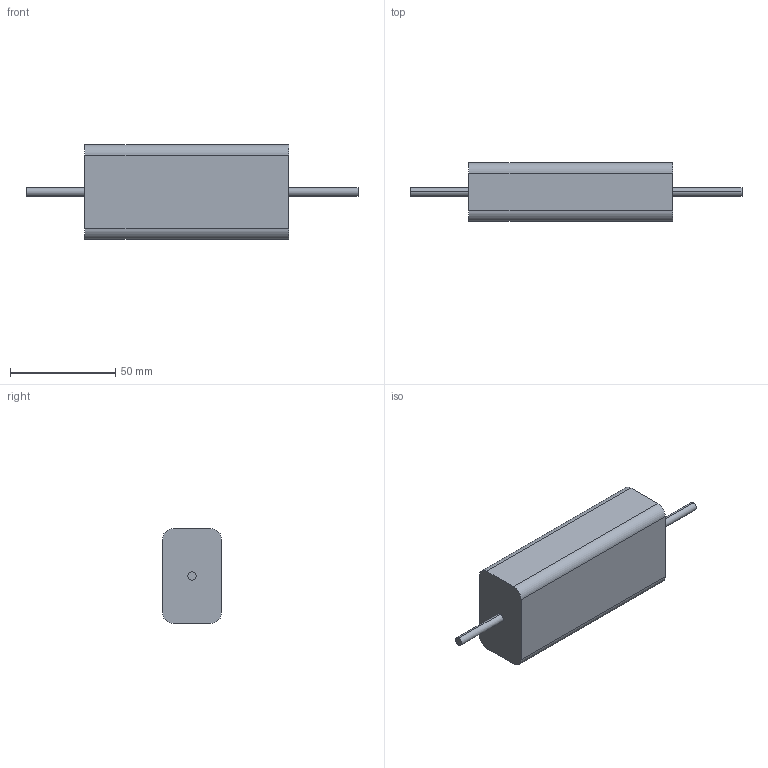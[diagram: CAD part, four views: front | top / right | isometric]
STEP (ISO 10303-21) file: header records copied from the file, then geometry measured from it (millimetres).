
FILE_DESCRIPTION (( 'STEP AP214' ), '1' );
FILE_NAME ('T1 Power Supply.step', '2018-03-16T17:52:04', ( '' ), ( '' ), 'SwSTEP 2.0', 'SolidWorks 2018', '' );
FILE_SCHEMA (( 'AUTOMOTIVE_DESIGN' ));
Length unit declared in the file: millimetre
Products named in the file (1): T1 Power Supply
Bounding box: 158 x 28 x 45 mm (x, y, z)
Volume: 120904.9 mm3; surface area: 16573 mm2
Topology: 1 solids, 1 shells, 16 faces, 36 edges, 24 vertices
Faces by surface type: cylinder 8, plane 8
Entity records: 490 total; most frequent: DIRECTION 86, CARTESIAN_POINT 77, ORIENTED_EDGE 72, EDGE_CURVE 36, AXIS2_PLACEMENT_3D 33, VERTEX_POINT 24, VECTOR 20, LINE 20
